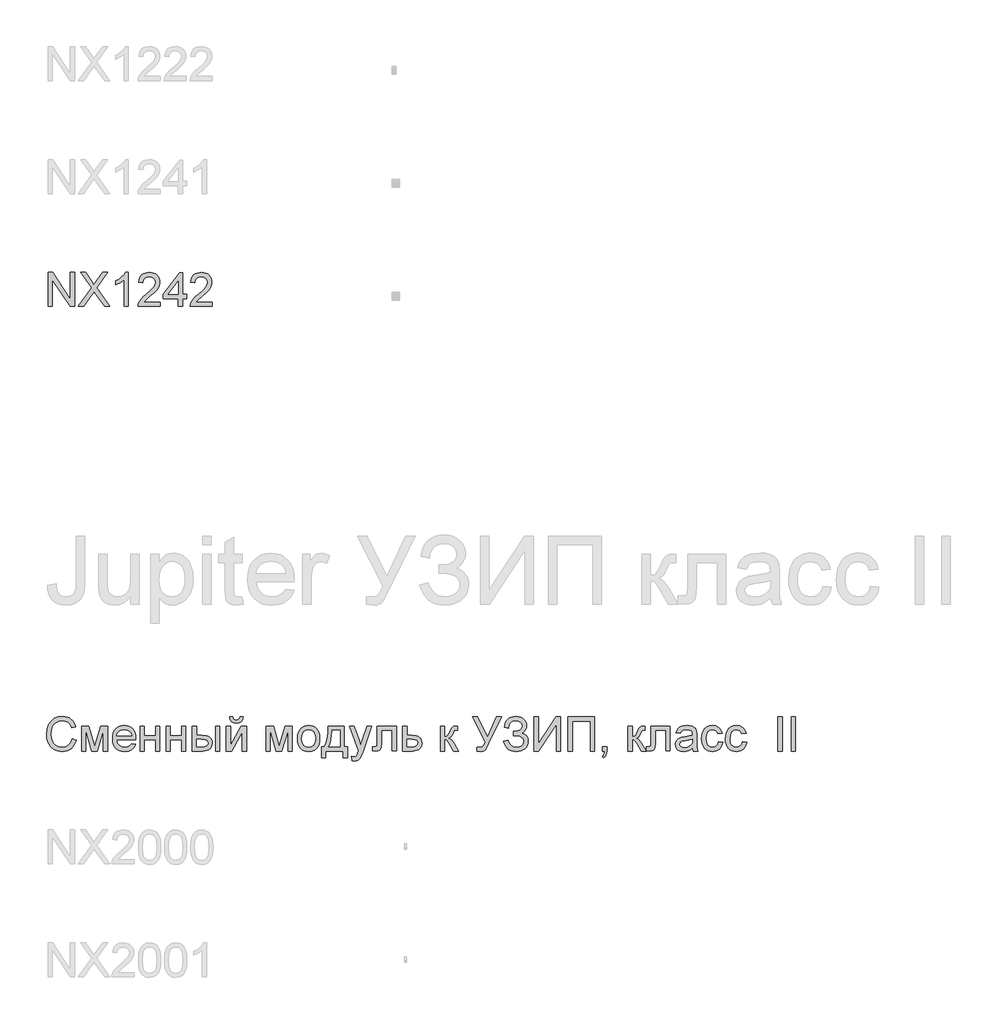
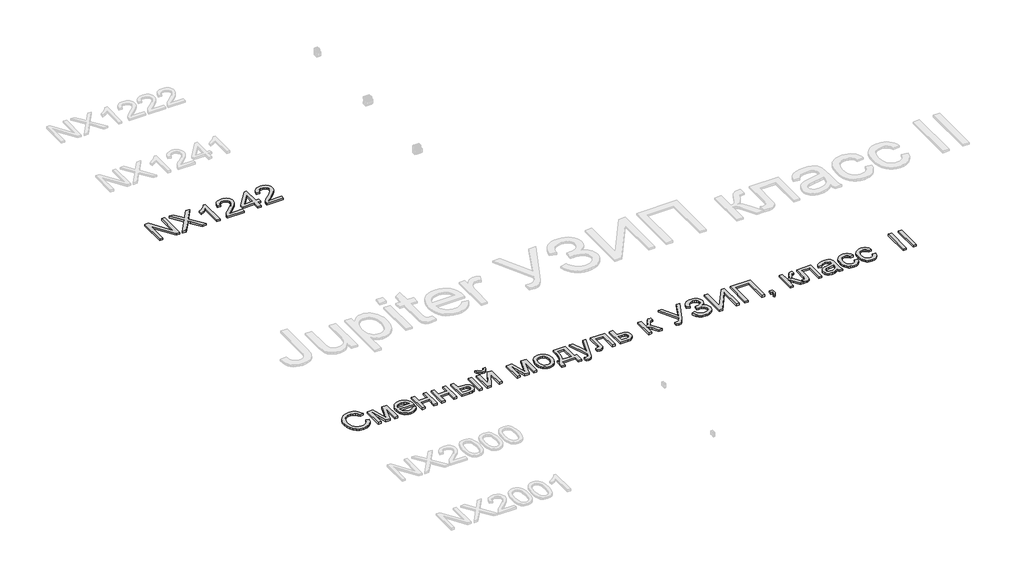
# One storey, part 28 of 124: 2 proxies.
"""IFC4 building model written with IfcOpenShell, lengths in millimetres."""

import ifcopenshell
import ifcopenshell.guid

model = None  # the IFC model being written
_history = None  # IfcOwnerHistory: only IFC2X3 demands one
_inside = {}  # id of a spatial element -> (the spatial element, [elements in it])
_under = {}  # id of a project, library or spatial element -> (it, [spatial elements below it])
_declared = {}  # id of a project -> (the project, [libraries it declares])
_typed = {}  # id of a type object -> (the type object, [elements of that type])
_made_of = {}  # id of a material, layer set ... -> (it, [elements and type objects made of it])


def new_model(schema):
    """Start an empty IFC model of exactly this schema.

    Asked for "IFC4X3", IfcOpenShell would pick the latest addendum, in which some entities
    have other attributes; the version numbers below select the first issue.
    IFC2X3 requires an IfcOwnerHistory on every rooted entity: one is made here for all.
    """
    global model, _history
    if schema == "IFC4X3":
        model = ifcopenshell.file(schema_version=(4, 3, 0, 0))
    else:
        model = ifcopenshell.file(schema=schema)
    _inside.clear()
    _under.clear()
    _declared.clear()
    _typed.clear()
    _made_of.clear()
    _history = None
    if model.schema == "IFC2X3":
        org = make("IfcOrganization", Name="unknown")
        user = make(
            "IfcPersonAndOrganization",
            ThePerson=make("IfcPerson", FamilyName="unknown"),
            TheOrganization=org,
        )
        app = make(
            "IfcApplication",
            ApplicationDeveloper=org,
            Version="unknown",
            ApplicationFullName="unknown",
            ApplicationIdentifier="unknown",
        )
        _history = make(
            "IfcOwnerHistory",
            OwningUser=user,
            OwningApplication=app,
            ChangeAction="ADDED",
            CreationDate=0,
        )
    return model


def make(cls, **values):
    """One entity of the class cls with the attributes given. An attribute that is None is left unset."""
    return model.create_entity(
        cls, **{name: value for name, value in values.items() if value is not None}
    )


def rooted(cls, **values):
    """An entity with a GlobalId (a new one), such as an element, a storey or a relation."""
    return make(cls, GlobalId=ifcopenshell.guid.new(), OwnerHistory=_history, **values)


def si_unit(unit_type, name, prefix=None):
    """IfcSIUnit, for example si_unit("LENGTHUNIT", "METRE", prefix="MILLI")."""
    return make("IfcSIUnit", UnitType=unit_type, Prefix=prefix, Name=name)


def assignment(units):
    """IfcUnitAssignment: the units of a project."""
    return None if units is None else make("IfcUnitAssignment", Units=units)


def point(xyz):
    """IfcCartesianPoint."""
    return None if xyz is None else make("IfcCartesianPoint", Coordinates=xyz)


def direction(xyz):
    """IfcDirection."""
    return None if xyz is None else make("IfcDirection", DirectionRatios=xyz)


def frame(location, z_axis=None, x_axis=None):
    """IfcAxis2Placement3D, a coordinate frame: its origin and axes. An axis left out is left unset."""
    return make(
        "IfcAxis2Placement3D",
        Location=point(location),
        Axis=direction(z_axis),
        RefDirection=direction(x_axis),
    )


def origin():
    """The frame at (0, 0, 0) with its axes left unset."""
    return frame((0.0, 0.0, 0.0))


def origin_with_axes():
    """The frame at (0, 0, 0) with the z axis (0, 0, 1) and the x axis (1, 0, 0) written out."""
    return frame((0.0, 0.0, 0.0), z_axis=(0.0, 0.0, 1.0), x_axis=(1.0, 0.0, 0.0))


def place(relative_to, where):
    """IfcLocalPlacement: puts the frame where relative to a parent placement (None: the world)."""
    return make(
        "IfcLocalPlacement", PlacementRelTo=relative_to, RelativePlacement=where
    )


def context(
    kind, dimensions, precision=None, world=None, true_north=None, identifier=None
):
    """IfcGeometricRepresentationContext, for example the 3D "Model" context."""
    return make(
        "IfcGeometricRepresentationContext",
        ContextIdentifier=identifier,
        ContextType=kind,
        CoordinateSpaceDimension=dimensions,
        Precision=precision,
        WorldCoordinateSystem=world,
        TrueNorth=true_north,
    )


def project(units=None, contexts=None):
    """IfcProject with its units and contexts."""
    return rooted(
        "IfcProject",
        Name="project",
        RepresentationContexts=contexts,
        UnitsInContext=assignment(units),
    )


def spatial(cls, under=None, at=None, **own):
    """A site, building, storey or space (cls), placed at a placement, below another one or the project."""
    s = rooted(cls, ObjectPlacement=at, **own)
    if under is not None:
        _under.setdefault(under.id(), (under, []))[1].append(s)
    return s


def polyline(points):
    """IfcPolyline through the points."""
    return make("IfcPolyline", Points=[point(p) for p in points])


def outline(outer, holes=None, kind="AREA"):
    """IfcArbitraryClosedProfileDef: a profile drawn as a closed curve; with holes, ...WithVoids."""
    if holes is None:
        return make("IfcArbitraryClosedProfileDef", ProfileType=kind, OuterCurve=outer)
    return make(
        "IfcArbitraryProfileDefWithVoids",
        ProfileType=kind,
        OuterCurve=outer,
        InnerCurves=holes,
    )


def extrude(swept, where, along, depth):
    """IfcExtrudedAreaSolid: the profile swept, set in the frame where, extruded along a direction by depth."""
    return make(
        "IfcExtrudedAreaSolid",
        SweptArea=swept,
        Position=where,
        ExtrudedDirection=direction(along),
        Depth=depth,
    )


def shape(context_of_items, identifier, shape_type, items):
    """IfcShapeRepresentation: the items that make up one representation, for example the "Body"."""
    return make(
        "IfcShapeRepresentation",
        ContextOfItems=context_of_items,
        RepresentationIdentifier=identifier,
        RepresentationType=shape_type,
        Items=items,
    )


def made_of(thing, what):
    """Note that an element or type object is made of a material, layer set ...; save() writes the relation."""
    if what is not None:
        _made_of.setdefault(what.id(), (what, []))[1].append(thing)
    return thing


def element(
    cls,
    number,
    at=None,
    inside=None,
    cuts=None,
    type_object=None,
    material=None,
    context=None,
    identifier="Body",
    shape_type=None,
    held_by="IfcProductDefinitionShape",
    body=None,
    shapes=None,
    **own,
):
    """One element of the class cls, such as IfcWall. Its Tag is "e" and its number.

    at: its placement. inside: the storey or other place that contains it. cuts: it is an
    opening in that element (IfcRelVoidsElement). A single representation is given by context,
    identifier, shape_type and body (its items); several are given by shapes. held_by: the class
    of the entity that holds the representations. save() writes the other relations.
    """
    e = rooted(cls, Tag="e%d" % number, ObjectPlacement=at, **own)
    if body is not None:
        shapes = [shape(context, identifier, shape_type, body)]
    if shapes is not None:
        e.Representation = make(held_by, Representations=shapes)
    if inside is not None:
        _inside.setdefault(inside.id(), (inside, []))[1].append(e)
    if cuts is not None:
        rooted(
            "IfcRelVoidsElement", RelatingBuildingElement=cuts, RelatedOpeningElement=e
        )
    if type_object is not None:
        _typed.setdefault(type_object.id(), (type_object, []))[1].append(e)
    return made_of(e, material)


def aggregate(whole, parts):
    """IfcRelAggregates: a whole, such as a stair, and the parts it consists of."""
    return rooted("IfcRelAggregates", RelatingObject=whole, RelatedObjects=parts)


def save(model, path):
    """Write the relations noted so far, then the file.

    IfcRelAggregates (storeys below a building ...), IfcRelContainedInSpatialStructure (elements
    in a storey), IfcRelDefinesByType, IfcRelAssociatesMaterial and IfcRelDeclares: one each for
    every whole, place, type object, material and project.
    """
    for whole, parts in _under.values():
        aggregate(whole, parts)
    for where, things in _inside.values():
        rooted(
            "IfcRelContainedInSpatialStructure",
            RelatedElements=things,
            RelatingStructure=where,
        )
    for kind, things in _typed.values():
        rooted("IfcRelDefinesByType", RelatedObjects=things, RelatingType=kind)
    for what, things in _made_of.values():
        rooted("IfcRelAssociatesMaterial", RelatedObjects=things, RelatingMaterial=what)
    for by, libraries in _declared.values():
        rooted("IfcRelDeclares", RelatingContext=by, RelatedDefinitions=libraries)
    model.write(path)


model = new_model("IFC4")

# Units and contexts
model_context = context("Model", 3, world=origin())
ifc_project = project(units=[si_unit("LENGTHUNIT", "METRE", prefix="MILLI")], contexts=[model_context])

# Site, building, storey
site = spatial("IfcSite", under=ifc_project)
building = spatial("IfcBuilding", under=site)
storey = spatial("IfcBuildingStorey", under=building, Name="Этаж 01", Elevation=0.0)

# Proxies
placement = place(None, origin())
element("IfcBuildingElementProxy", 1, Name="300", ObjectType="300", at=placement, inside=storey, context=model_context, shape_type="SweptSolid", body=[
    extrude(outline(polyline([(49499.8220677, -112181.4490745), (49499.8220677, -111880.080144), (49540.1419344, -111880.080144), (49697.5954283, -112118.8355589), (49697.5954283, -111880.080144), (49735.2665446, -111880.080144), (49735.2665446, -112181.4490745), (49694.9466779, -112181.4490745), (49537.493184, -111942.6200832), (49537.493184, -112181.4490745), (49499.8220677, -112181.4490745)])), origin_with_axes(), (0.0, 0.0, 1.0), 20.0),
    extrude(outline(polyline([(49768.2287714, -112181.4490745), (49884.4059055, -112017.2265518), (49787.0643295, -111880.080144), (49832.2402385, -111880.080144), (49887.0546558, -111957.2617866), (49905.522332, -111987.3545338), (49927.1537933, -111956.7467518), (49981.3795994, -111880.080144), (50027.217696, -111880.080144), (49929.8761201, -112017.6680102), (50046.0532541, -112181.4490745), (50000.8773451, -112181.4490745), (49923.4749733, -112072.2616983), (49907.361742, -112049.6001674), (49889.6298298, -112074.4689903), (49814.066868, -112181.4490745), (49768.2287714, -112181.4490745)])), origin_with_axes(), (0.0, 0.0, 1.0), 20.0),
    extrude(outline(polyline([(50210.864388, -112181.4490745), (50173.1932717, -112181.4490745), (50173.1932717, -111946.5932087), (50137.5087181, -111972.0138546), (50097.8510391, -111991.0333538), (50097.8510391, -111955.4223766), (50127.4379485, -111939.3275393), (50153.0701265, -111920.1792815), (50173.2760451, -111899.817013), (50186.5841763, -111880.080144), (50210.864388, -111880.080144), (50210.864388, -112181.4490745)])), origin_with_axes(), (0.0, 0.0, 1.0), 20.0),
    extrude(outline(polyline([(50493.3977603, -112143.7779581), (50493.3977603, -112181.4490745), (50295.6243997, -112181.4490745), (50299.6711016, -112155.4766056), (50308.960122, -112135.1787165), (50322.5533617, -112115.4878327), (50342.2166543, -112094.8772439), (50369.7158335, -112071.8202399), (50410.366794, -112035.7126221), (50434.7573702, -112009.0595715), (50446.9526584, -111987.4281102), (50451.0177544, -111966.3852601), (50447.1825846, -111947.5221108), (50435.6770752, -111931.8411407), (50417.9911483, -111921.2737304), (50395.6147259, -111917.7512603), (50372.1162635, -111921.190957), (50353.8601195, -111931.5100469), (50342.0786986, -111947.8991898), (50338.0044055, -111969.5490452), (50300.3332892, -111964.8401557), (50309.4659597, -111928.4014441), (50318.0123183, -111913.8655067), (50329.2120258, -111901.7851817), (50342.8075648, -111892.2892277), (50358.5414179, -111885.5064034), (50396.4240663, -111880.080144), (50416.6138901, -111881.5884602), (50434.5826263, -111886.1134087), (50450.3302749, -111893.6549896), (50463.8568361, -111904.2132029), (50474.7208512, -111917.0062993), (50482.4808621, -111931.2525295), (50487.1368686, -111946.9518937), (50488.6888707, -111964.1043917), (50487.0150077, -111982.1214124), (50481.9934184, -111999.8257334), (50473.0814771, -112017.8335571), (50459.7365577, -112036.7610858), (50438.4637813, -112059.3582373), (50405.768269, -112088.3749297), (50362.43177, -112124.6113062), (50345.4356218, -112143.7779581), (50493.3977603, -112143.7779581)])), origin_with_axes(), (0.0, 0.0, 1.0), 20.0),
    extrude(outline(polyline([(50653.5000046, -112181.4490745), (50653.5000046, -112110.8157314), (50516.942208, -112110.8157314), (50516.942208, -112073.1446151), (50662.9177836, -111884.7890335), (50691.1711209, -111884.7890335), (50691.1711209, -112073.1446151), (50728.8422372, -112073.1446151), (50728.8422372, -112110.8157314), (50691.1711209, -112110.8157314), (50691.1711209, -112181.4490745), (50653.5000046, -112181.4490745)]), holes=[polyline([(50653.5000046, -112073.1446151), (50653.5000046, -111956.7467518), (50563.2953394, -112073.1446151), (50653.5000046, -112073.1446151)])]), origin_with_axes(), (0.0, 0.0, 1.0), 20.0),
    extrude(outline(polyline([(50954.868935, -112143.7779581), (50954.868935, -112181.4490745), (50757.0955744, -112181.4490745), (50761.1422764, -112155.4766056), (50770.4312967, -112135.1787165), (50784.0245365, -112115.4878327), (50803.6878291, -112094.8772439), (50831.1870082, -112071.8202399), (50871.8379687, -112035.7126221), (50896.228545, -112009.0595715), (50908.4238331, -111987.4281102), (50912.4889292, -111966.3852601), (50908.6537594, -111947.5221108), (50897.14825, -111931.8411407), (50879.4623231, -111921.2737304), (50857.0859007, -111917.7512603), (50833.5874383, -111921.190957), (50815.3312942, -111931.5100469), (50803.5498734, -111947.8991898), (50799.4755803, -111969.5490452), (50761.8044639, -111964.8401557), (50770.9371345, -111928.4014441), (50779.4834931, -111913.8655067), (50790.6832006, -111901.7851817), (50804.2787396, -111892.2892277), (50820.0125926, -111885.5064034), (50857.8952411, -111880.080144), (50878.0850648, -111881.5884602), (50896.053801, -111886.1134087), (50911.8014497, -111893.6549896), (50925.3280108, -111904.2132029), (50936.192026, -111917.0062993), (50943.9520368, -111931.2525295), (50948.6080433, -111946.9518937), (50950.1600455, -111964.1043917), (50948.4861824, -111982.1214124), (50943.4645932, -111999.8257334), (50934.5526518, -112017.8335571), (50921.2077325, -112036.7610858), (50899.9349561, -112059.3582373), (50867.2394438, -112088.3749297), (50823.9029447, -112124.6113062), (50806.9067966, -112143.7779581), (50954.868935, -112143.7779581)])), origin_with_axes(), (0.0, 0.0, 1.0), 20.0),
])
element("IfcBuildingElementProxy", 2, Name="300", ObjectType="300", at=placement, inside=storey, context=model_context, shape_type="SweptSolid", body=[
    extrude(outline(polyline([(49711.7220969, -116009.5641523), (49749.3932132, -116019.276237), (49741.9390043, -116042.7034223), (49732.0107889, -116063.1737561), (49719.6085672, -116080.6872383), (49704.732339, -116095.243869), (49687.7177967, -116106.6872983), (49668.9006327, -116114.8611764), (49648.2808468, -116119.7655032), (49625.8584392, -116121.4002788), (49582.1632553, -116116.452266), (49547.4627861, -116101.6082275), (49520.8649178, -116077.3831981), (49501.4775367, -116044.2922126), (49489.6409335, -116005.3886917), (49485.6953991, -115963.7260557), (49490.1559683, -115919.7825514), (49503.5376758, -115881.8355236), (49525.141546, -115851.0897858), (49554.268603, -115828.7501517), (49588.8127223, -115815.1477149), (49626.6677796, -115810.6135693), (49667.9717306, -115816.4812871), (49685.9404668, -115823.8159344), (49702.1203768, -115834.0844406), (49716.2447462, -115847.0154927), (49728.0468605, -115862.3377778), (49744.6843237, -115900.1560469), (49707.0132074, -115909.1323676), (49693.9533965, -115881.6607796), (49676.1111198, -115862.8160244), (49653.2656479, -115851.9175203), (49625.1962516, -115848.2846856), (49592.8410302, -115852.3129935), (49566.261556, -115864.397917), (49546.0924256, -115883.2702634), (49532.9682355, -115907.6608396), (49525.7669454, -115935.2335952), (49523.3665154, -115963.6524793), (49526.2084038, -115998.4541161), (49534.734069, -116028.5468633), (49549.2654078, -116052.7810897), (49570.124317, -116070.0071641), (49595.1310956, -116080.2986629), (49622.1060429, -116083.7291625), (49653.5507564, -116079.0570612), (49679.7531515, -116065.0407572), (49699.5360058, -116041.8274033), (49711.7220969, -116009.5641523)])), origin_with_axes(), (0.0, 0.0, 1.0), 20.0),
    extrude(outline(polyline([(49796.4821086, -115895.373581), (49861.3029162, -115895.373581), (49911.2612911, -116072.5455499), (49965.1192152, -115895.373581), (50027.217696, -115895.373581), (50027.217696, -116116.6913893), (49989.5465797, -116116.6913893), (49989.5465797, -115938.4893508), (49935.39435, -116116.6913893), (49885.9510098, -116116.6913893), (49834.1532249, -115929.9544885), (49834.1532249, -116116.6913893), (49796.4821086, -116116.6913893), (49796.4821086, -115895.373581)])), origin_with_axes(), (0.0, 0.0, 1.0), 20.0),
    extrude(outline(polyline([(50238.6762668, -116050.7669358), (50275.6116191, -116055.4758253), (50262.3034879, -116083.3060982), (50241.0674998, -116104.1098251), (50212.3819012, -116117.0776654), (50176.7249388, -116121.4002788), (50153.3506366, -116119.535577), (50132.5239171, -116113.9414714), (50114.2447805, -116104.6179621), (50098.5132266, -116091.565049), (50085.8626845, -116075.1460157), (50076.826583, -116055.7241456), (50071.4049221, -116033.2994388), (50069.5977018, -116007.8718951), (50071.4233162, -115981.582128), (50076.9001594, -115958.4101609), (50086.0282314, -115938.3559936), (50098.8075322, -115921.4196263), (50114.4976993, -115907.9643423), (50132.3583702, -115898.3534252), (50152.3895448, -115892.5868749), (50174.5912232, -115890.6646915), (50196.077831, -115892.5822764), (50215.5088982, -115898.3350311), (50232.8844246, -115907.9229556), (50248.2044105, -115921.3460499), (50260.7100991, -115938.245629), (50269.6427338, -115958.2630081), (50275.0023146, -115981.398187), (50276.7888415, -116007.6511659), (50276.5681123, -116017.804709), (50107.2688181, -116017.804709), (50113.7895265, -116046.0028639), (50128.9370676, -116066.7330144), (50150.7984552, -116079.4801255), (50177.4607028, -116083.7291625), (50197.5102715, -116081.7609939), (50214.3960551, -116075.8564878), (50228.1180535, -116065.6477625), (50238.6762668, -116050.7669358)]), holes=[polyline([(50107.2688181, -115980.1335927), (50239.1177252, -115980.1335927), (50234.0225596, -115960.2311768), (50224.0345634, -115945.9941435), (50202.0720083, -115932.7503917), (50174.4440704, -115928.3358078), (50149.0510157, -115931.8582779), (50128.0541509, -115942.4256882), (50113.4584327, -115958.8976045), (50107.2688181, -115980.1335927)])]), origin_with_axes(), (0.0, 0.0, 1.0), 20.0),
    extrude(outline(polyline([(50314.4599578, -115895.373581), (50352.1310741, -115895.373581), (50352.1310741, -115980.1335927), (50451.0177544, -115980.1335927), (50451.0177544, -115895.373581), (50488.6888707, -115895.373581), (50488.6888707, -116116.6913893), (50451.0177544, -116116.6913893), (50451.0177544, -116017.804709), (50352.1310741, -116017.804709), (50352.1310741, -116116.6913893), (50314.4599578, -116116.6913893), (50314.4599578, -115895.373581)])), origin_with_axes(), (0.0, 0.0, 1.0), 20.0),
    extrude(outline(polyline([(50545.1955452, -115895.373581), (50582.8666615, -115895.373581), (50582.8666615, -115980.1335927), (50681.7533418, -115980.1335927), (50681.7533418, -115895.373581), (50719.4244581, -115895.373581), (50719.4244581, -116116.6913893), (50681.7533418, -116116.6913893), (50681.7533418, -116017.804709), (50582.8666615, -116017.804709), (50582.8666615, -116116.6913893), (50545.1955452, -116116.6913893), (50545.1955452, -115895.373581)])), origin_with_axes(), (0.0, 0.0, 1.0), 20.0),
    extrude(outline(polyline([(50983.1222722, -115895.373581), (51020.7933886, -115895.373581), (51020.7933886, -116116.6913893), (50983.1222722, -116116.6913893), (50983.1222722, -115895.373581)])), origin_with_axes(), (0.0, 0.0, 1.0), 20.0),
    extrude(outline(polyline([(50775.9311326, -115895.373581), (50813.6022489, -115895.373581), (50813.6022489, -115975.4247032), (50860.1761095, -115975.4247032), (50900.4315968, -115980.1427897), (50916.648295, -115986.040398), (50930.2576295, -115994.2970495), (50941.0250757, -116004.6276358), (50948.7161086, -116016.7470483), (50953.3307284, -116030.6552869), (50954.868935, -116046.3523518), (50949.70939, -116073.308905), (50934.2307551, -116096.0532094), (50922.36886, -116105.0824131), (50907.4213547, -116111.5318443), (50868.2695134, -116116.6913893), (50775.9311326, -116116.6913893), (50775.9311326, -115895.373581)]), holes=[polyline([(50813.6022489, -116079.020273), (50852.3034348, -116079.020273), (50882.3042115, -116077.0429073), (50902.2618097, -116071.1108101), (50913.4638165, -116060.9848582), (50917.1978187, -116046.4259282), (50914.4295067, -116034.1202755), (50906.1245707, -116023.2493625), (50888.3650673, -116015.6342052), (50857.2330535, -116013.0958195), (50813.6022489, -116013.0958195), (50813.6022489, -116079.020273)])]), origin_with_axes(), (0.0, 0.0, 1.0), 20.0),
    extrude(outline(polyline([(51077.300063, -115895.373581), (51114.9711793, -115895.373581), (51114.9711793, -116064.1578404), (51207.5302893, -115895.373581), (51256.2378655, -115895.373581), (51256.2378655, -116116.6913893), (51218.5667492, -116116.6913893), (51218.5667492, -115948.9371995), (51126.5962504, -116116.6913893), (51077.300063, -116116.6913893), (51077.300063, -115895.373581)])), origin_with_axes(), (0.0, 0.0, 1.0), 20.0),
    extrude(outline(polyline([(51199.731191, -115815.3224589), (51227.9845282, -115815.3224589), (51221.9052783, -115839.4463207), (51209.7007931, -115857.2242181), (51191.9228957, -115868.1779045), (51169.123409, -115871.8291333), (51144.3833448, -115868.2054957), (51125.1982988, -115857.3345827), (51112.0833057, -115839.5842764), (51105.5534002, -115815.3224589), (51133.8067375, -115815.3224589), (51137.779863, -115827.7292791), (51144.4017389, -115836.54925), (51153.7091534, -115841.8191596), (51165.7388947, -115843.5757961), (51179.3137403, -115841.8743419), (51189.1361895, -115836.7699792), (51195.7580655, -115828.0051906), (51199.731191, -115815.3224589)])), origin_with_axes(), (0.0, 0.0, 1.0), 20.0),
    extrude(outline(polyline([(51430.4667784, -115895.373581), (51495.2875859, -115895.373581), (51545.2459609, -116072.5455499), (51599.103885, -115895.373581), (51661.2023658, -115895.373581), (51661.2023658, -116116.6913893), (51623.5312495, -116116.6913893), (51623.5312495, -115938.4893508), (51569.3790198, -116116.6913893), (51519.9356796, -116116.6913893), (51468.1378947, -115929.9544885), (51468.1378947, -116116.6913893), (51430.4667784, -116116.6913893), (51430.4667784, -115895.373581)])), origin_with_axes(), (0.0, 0.0, 1.0), 20.0),
    extrude(outline(polyline([(51708.2912611, -116006.0324852), (51710.3284077, -115977.3698792), (51716.4398473, -115952.6712018), (51726.6255801, -115931.9364528), (51740.8856059, -115915.1656323), (51755.2422008, -115904.4464707), (51771.0887177, -115896.7899267), (51788.4251567, -115892.1960003), (51807.2515178, -115890.6646915), (51828.0345513, -115892.5293933), (51846.8264235, -115898.1234989), (51863.6271343, -115907.4470082), (51878.4366839, -115920.4999213), (51890.5239067, -115936.8407796), (51899.1576373, -115956.028125), (51904.3378756, -115978.0619572), (51906.0646217, -116002.9422764), (51903.0112012, -116040.9996688), (51893.8509395, -116069.9703759), (51878.8505512, -116091.6662166), (51858.2767506, -116107.8990096), (51833.840189, -116118.0249615), (51807.2515178, -116121.4002788), (51786.1649817, -116119.5424748), (51767.1983656, -116113.9690625), (51750.3516695, -116104.6800422), (51735.6248934, -116091.6754136), (51723.6664293, -116075.1759061), (51715.1246692, -116055.4022489), (51709.9996132, -116032.3544419), (51708.2912611, -116006.0324852)]), holes=[polyline([(51745.9623774, -116005.9589088), (51750.3217791, -116040.0523727), (51763.399984, -116064.3417814), (51783.0816708, -116078.8823172), (51807.2515178, -116083.7291625), (51831.3110003, -116078.8547261), (51850.9558989, -116064.2314168), (51864.0341038, -116039.6201113), (51868.3935054, -116004.7816864), (51864.0065126, -115971.6815039), (51850.8455343, -115947.7231889), (51831.1730446, -115933.1826531), (51807.2515178, -115928.3358078), (51783.0816708, -115933.164259), (51763.399984, -115947.6496125), (51750.3217791, -115971.8838389), (51745.9623774, -116005.9589088)])]), origin_with_axes(), (0.0, 0.0, 1.0), 20.0),
    extrude(outline(polyline([(51981.4068544, -115895.373581), (52122.6735405, -115895.373581), (52122.6735405, -116079.020273), (52150.9268777, -116079.020273), (52150.9268777, -116177.9069533), (52113.2557614, -116177.9069533), (52113.2557614, -116116.6913893), (51957.8624067, -116116.6913893), (51957.8624067, -116177.9069533), (51920.1912904, -116177.9069533), (51920.1912904, -116079.020273), (51943.7357381, -116079.020273), (51960.8514479, -116048.0905942), (51972.8352039, -116007.1729193), (51979.687006, -115956.2672483), (51981.4068544, -115895.373581)]), holes=[polyline([(52014.3690811, -115933.0446973), (52011.2788724, -115979.1679025), (52005.5399132, -116018.8715668), (51997.1522038, -116052.1556903), (51986.1157439, -116079.020273), (52085.0024242, -116079.020273), (52085.0024242, -115933.0446973), (52014.3690811, -115933.0446973)])]), origin_with_axes(), (0.0, 0.0, 1.0), 20.0),
    extrude(outline(polyline([(52193.3068836, -116201.451401), (52188.597994, -116165.1782363), (52207.7278578, -116168.4891742), (52225.6069228, -116164.3321077), (52236.5698062, -116152.7438248), (52246.8705021, -116125.0055224), (52249.813558, -116115.8820489), (52169.7624359, -115895.373581), (52209.4936914, -115895.373581), (52251.9472736, -116018.2461674), (52266.7361298, -116067.3952019), (52281.524986, -116023.9851265), (52325.1557907, -115895.373581), (52364.5927405, -115895.373581), (52287.5582507, -116121.98889), (52267.5454702, -116171.1379246), (52257.2999566, -116186.8280917), (52245.6932797, -116197.6990046), (52232.2104046, -116204.0449691), (52216.3362965, -116206.1602905), (52193.3068836, -116201.451401)])), origin_with_axes(), (0.0, 0.0, 1.0), 20.0),
    extrude(outline(polyline([(52414.6246919, -115895.373581), (52584.1447153, -115895.373581), (52584.1447153, -116116.4706601), (52546.4735989, -116116.4706601), (52546.4735989, -115933.0446973), (52452.2958082, -115933.0446973), (52452.2958082, -116038.6268299), (52449.7574224, -116087.3344061), (52445.0025476, -116098.3616689), (52435.8146948, -116107.8990096), (52421.8719672, -116114.4932944), (52402.852468, -116116.6913893), (52372.244686, -116114.7784029), (52372.244686, -116079.020273), (52389.0936814, -116079.020273), (52406.1266178, -116076.7026164), (52412.9324347, -116069.3449765), (52414.6246919, -116036.4931144), (52414.6246919, -115895.373581)])), origin_with_axes(), (0.0, 0.0, 1.0), 20.0),
    extrude(outline(polyline([(52640.6513897, -115895.373581), (52678.322506, -115895.373581), (52678.322506, -115975.4247032), (52721.7325815, -115975.4247032), (52759.3669096, -115980.1427897), (52774.5144507, -115986.040398), (52787.2155766, -115994.2970495), (52797.2587551, -116004.6276358), (52804.432454, -116016.7470483), (52810.1714131, -116046.3523518), (52805.2877796, -116073.308905), (52790.6368791, -116096.0532094), (52779.404982, -116105.0824131), (52765.2438244, -116111.5318443), (52728.1337282, -116116.6913893), (52640.6513897, -116116.6913893), (52640.6513897, -115895.373581)]), holes=[polyline([(52678.322506, -116079.020273), (52713.4920248, -116079.020273), (52740.7796718, -116077.0429073), (52758.9254512, -116071.1108101), (52769.1065854, -116060.9848582), (52772.5002968, -116046.4259282), (52769.9895022, -116034.1202755), (52762.4571183, -116023.2493625), (52746.3162958, -116015.6342052), (52717.9801851, -116013.0958195), (52678.322506, -116013.0958195), (52678.322506, -116079.020273)])]), origin_with_axes(), (0.0, 0.0, 1.0), 20.0),
    extrude(outline(polyline([(52974.9825469, -115895.373581), (53012.6536632, -115895.373581), (53012.6536632, -115989.5513718), (53027.9759483, -115987.8591146), (53037.8903681, -115982.7823431), (53046.6643537, -115969.5385912), (53058.5653362, -115943.3453932), (53075.7454254, -115909.3163086), (53090.9021636, -115898.2430606), (53118.4565251, -115895.373581), (53125.6670122, -115895.373581), (53125.6670122, -115933.2654265), (53115.5134691, -115933.0446973), (53097.1193693, -115937.0178229), (53084.1699231, -115961.8130693), (53068.9763967, -115988.6316668), (53047.6760292, -116001.765054), (53059.6137999, -116007.0671533), (53071.4412061, -116016.4251515), (53094.7649246, -116047.308845), (53135.0847912, -116116.6913893), (53092.263327, -116116.6913893), (53052.7528007, -116048.780373), (53032.887173, -116020.0487892), (53023.5981526, -116014.8340619), (53012.6536632, -116013.0958195), (53012.6536632, -116116.6913893), (52974.9825469, -116116.6913893), (52974.9825469, -115895.373581)])), origin_with_axes(), (0.0, 0.0, 1.0), 20.0),
    extrude(outline(polyline([(53259.870364, -115815.3224589), (53301.5881822, -115815.3224589), (53391.7192711, -115993.8188029), (53472.8004628, -115815.3224589), (53514.1503991, -115815.3224589), (53399.7390986, -116050.1047482), (53382.4670389, -116086.5618539), (53368.6162818, -116107.788645), (53353.8458197, -116117.9973704), (53333.814645, -116121.4002788), (53299.8959251, -116116.6913893), (53299.8959251, -116083.7291625), (53329.5472139, -116083.7291625), (53341.4114082, -116081.6322352), (53351.5465572, -116075.341453), (53361.277036, -116061.6010605), (53371.9272197, -116037.1553019), (53259.870364, -115815.3224589)])), origin_with_axes(), (0.0, 0.0, 1.0), 20.0),
    extrude(outline(polyline([(53535.340402, -116031.9313776), (53573.0115183, -116022.5135985), (53580.9669664, -116042.9034581), (53596.1512958, -116063.3117118), (53618.0126834, -116078.6247998), (53645.9993061, -116083.7291625), (53674.3538109, -116079.8939927), (53695.9944693, -116068.3884833), (53709.7072706, -116051.4567145), (53714.2782044, -116031.3427664), (53709.2842064, -116010.2723251), (53694.3022121, -115994.0027439), (53670.7117792, -115983.6008805), (53639.892465, -115980.1335927), (53620.1004137, -115980.1335927), (53620.1004137, -115942.4624764), (53662.7379369, -115939.4090558), (53676.6346793, -115933.9827964), (53688.8207704, -115923.8108592), (53697.3188445, -115910.4107576), (53700.1515358, -115895.3000046), (53696.3807454, -115877.5588954), (53685.068374, -115862.3009896), (53667.3180678, -115851.7887616), (53644.2334726, -115848.2846856), (53623.3653664, -115850.9794212), (53605.7898041, -115859.0636281), (53592.325323, -115871.5992071), (53583.7904607, -115887.6480591), (53577.7204078, -115914.2091392), (53540.0492915, -115904.7913601), (53551.7525375, -115863.5885766), (53561.1668677, -115847.4017688), (53572.956336, -115834.158017), (53587.1209424, -115823.8573211), (53603.660687, -115816.4996812), (53622.5755697, -115812.0850973), (53643.8655906, -115810.6135693), (53664.3773111, -115812.1425789), (53682.6495499, -115816.7296075), (53698.6823071, -115824.3746552), (53712.4755827, -115835.077722), (53723.5649256, -115847.8271324), (53731.4858848, -115861.6112109), (53736.2384603, -115876.4299575), (53737.8226521, -115892.2833722), (53735.3578428, -115912.1076133), (53727.9634147, -115929.5682125), (53715.6393678, -115944.6651698), (53698.3857022, -115957.3984854), (53719.3365819, -115967.0461907), (53736.5718533, -115983.334166), (53748.1049539, -116004.8644598), (53751.9493207, -116030.2391204), (53750.1053122, -116048.8700442), (53744.5732867, -116065.9144769), (53735.3532442, -116081.3724185), (53722.4451847, -116095.243869), (53706.4929017, -116106.6872983), (53688.1401887, -116114.8611764), (53667.3870456, -116119.7655032), (53644.2334726, -116121.4002788), (53606.0289274, -116115.8084725), (53589.6719741, -116108.8187146), (53575.1452339, -116099.0330535), (53562.4487065, -116086.4514893), (53551.5823921, -116071.0740219), (53535.340402, -116031.9313776)])), origin_with_axes(), (0.0, 0.0, 1.0), 20.0),
    extrude(outline(polyline([(53803.7471057, -115815.3224589), (53841.418222, -115815.3224589), (53841.418222, -116054.0042973), (53999.1660215, -115815.3224589), (54039.1915826, -115815.3224589), (54039.1915826, -116116.6913893), (54001.5204663, -116116.6913893), (54001.5204663, -115878.6717384), (53844.1405487, -116116.6913893), (53803.7471057, -116116.6913893), (53803.7471057, -115815.3224589)])), origin_with_axes(), (0.0, 0.0, 1.0), 20.0),
    extrude(outline(polyline([(54105.1160361, -115815.3224589), (54340.560513, -115815.3224589), (54340.560513, -116116.6913893), (54302.8893967, -116116.6913893), (54302.8893967, -115852.9935752), (54142.7871524, -115852.9935752), (54142.7871524, -116116.6913893), (54105.1160361, -116116.6913893), (54105.1160361, -115815.3224589)])), origin_with_axes(), (0.0, 0.0, 1.0), 20.0),
    extrude(outline(polyline([(54411.1938561, -116116.6913893), (54411.1938561, -116079.020273), (54448.8649724, -116079.020273), (54448.8649724, -116116.6913893), (54447.1727152, -116138.2400772), (54442.0959437, -116155.2086342), (54433.3403522, -116168.2224598), (54420.6116352, -116177.9069533), (54411.1938561, -116163.7802847), (54419.3608364, -116156.9560737), (54425.0262191, -116147.5199005), (54429.9558379, -116116.6913893), (54411.1938561, -116116.6913893)])), origin_with_axes(), (0.0, 0.0, 1.0), 20.0),
    extrude(outline(polyline([(54839.7028041, -115895.373581), (55009.2228275, -115895.373581), (55009.2228275, -116116.4706601), (54971.5517112, -116116.4706601), (54971.5517112, -115933.0446973), (54877.3739204, -115933.0446973), (54877.3739204, -116038.6268299), (54874.8355346, -116087.3344061), (54870.0806598, -116098.3616689), (54860.892807, -116107.8990096), (54846.9500794, -116114.4932944), (54827.9305802, -116116.6913893), (54797.3227982, -116114.7784029), (54797.3227982, -116079.020273), (54814.1717936, -116079.020273), (54831.20473, -116076.7026164), (54838.0105469, -116069.3449765), (54839.7028041, -116036.4931144), (54839.7028041, -115895.373581)])), origin_with_axes(), (0.0, 0.0, 1.0), 20.0),
    extrude(outline(polyline([(54637.2205539, -115895.373581), (54674.8916702, -115895.373581), (54674.8916702, -115989.5513718), (54690.2139553, -115987.8591146), (54700.1283751, -115982.7823431), (54708.9023607, -115969.5385912), (54720.8033432, -115943.3453932), (54737.9834324, -115909.3163086), (54753.1401706, -115898.2430606), (54780.6945321, -115895.373581), (54787.9050192, -115895.373581), (54787.9050192, -115933.2654265), (54777.7514761, -115933.0446973), (54759.3573763, -115937.0178229), (54746.4079301, -115961.8130693), (54731.2144037, -115988.6316668), (54709.9140362, -116001.765054), (54721.8518069, -116007.0671533), (54733.6792131, -116016.4251515), (54757.0029316, -116047.308845), (54797.3227982, -116116.6913893), (54754.501334, -116116.6913893), (54714.9908077, -116048.780373), (54695.12518, -116020.0487892), (54685.8361596, -116014.8340619), (54674.8916702, -116013.0958195), (54674.8916702, -116116.6913893), (54637.2205539, -116116.6913893), (54637.2205539, -115895.373581)])), origin_with_axes(), (0.0, 0.0, 1.0), 20.0),
    extrude(outline(polyline([(55206.9961881, -116088.4380521), (55188.9975615, -116103.8707018), (55170.4655059, -116113.9690625), (55150.9769573, -116119.5424748), (55130.1088511, -116121.4002788), (55098.6273493, -116116.9305126), (55075.4047984, -116103.5212139), (55061.0849917, -116083.1589454), (55056.3117228, -116057.8302701), (55058.1143446, -116042.2136794), (55063.5222099, -116028.0318285), (55071.8639342, -116015.8917226), (55082.4681327, -116006.4003671), (55108.8452718, -115994.0395321), (55141.4396165, -115988.3741494), (55179.9568614, -115982.4144611), (55206.7754589, -115975.4247032), (55206.9961881, -115967.0369937), (55204.40262, -115950.2247865), (55196.6219158, -115939.2251148), (55179.2210974, -115931.0581345), (55154.977674, -115928.3358078), (55132.5368722, -115930.1476266), (55116.8650993, -115935.5830831), (55106.1781273, -115945.6354586), (55098.6917287, -115961.2980345), (55061.0206124, -115956.589145), (55067.5597148, -115935.9877533), (55077.3177848, -115919.8009455), (55091.2053301, -115907.4217163), (55110.1328587, -115898.2430606), (55133.2818333, -115892.5592837), (55159.8337163, -115890.6646915), (55185.3003474, -115892.3385545), (55205.4878719, -115897.3601438), (55220.7089894, -115904.9109217), (55231.2763997, -115914.172351), (55238.2845518, -115925.6226781), (55242.8278944, -115939.7401496), (55244.6673044, -115972.7023764), (55244.6673044, -116019.5705426), (55246.5802907, -116085.0167495), (55254.0850835, -116116.6913893), (55216.4139671, -116116.6913893), (55206.9961881, -116088.4380521)]), holes=[polyline([(55206.9961881, -116013.0958195), (55146.2220825, -116024.6473141), (55113.8116787, -116030.7541552), (55099.1331871, -116040.6869691), (55093.9828392, -116055.1815197), (55096.7879394, -116066.3835265), (55105.20324, -116075.5621822), (55119.0448001, -116081.6874175), (55138.1286786, -116083.7291625), (55158.3621883, -116081.4758853), (55176.2412533, -116074.7160537), (55190.7358039, -116064.7556486), (55200.8157705, -116052.9006513), (55205.2855368, -116040.6869691), (55206.7754589, -116023.7643973), (55206.9961881, -116013.0958195)])]), origin_with_axes(), (0.0, 0.0, 1.0), 20.0),
    extrude(outline(polyline([(55437.7317754, -116036.6402671), (55475.4028917, -116041.3491567), (55464.8998608, -116074.8540094), (55445.1629917, -116100.1734877), (55418.0500887, -116116.0935811), (55385.4189557, -116121.4002788), (55364.2910329, -116119.5493726), (55345.3474094, -116113.9966537), (55328.5880853, -116104.7421222), (55314.0130605, -116091.7857782), (55302.2155447, -116075.3713435), (55293.7887478, -116055.7425397), (55288.7326696, -116032.8993671), (55287.0473102, -116006.8418255), (55289.9259868, -115973.3185787), (55298.5620167, -115944.2650982), (55313.0933555, -115920.8034239), (55333.657959, -115904.0555961), (55358.2600674, -115894.0124176), (55384.9039209, -115890.6646915), (55416.7349106, -115895.2632164), (55442.1831476, -115909.0587912), (55460.4392916, -115931.3156519), (55470.6940022, -115961.2980345), (55433.0228859, -115966.0069241), (55426.1894778, -115949.5717959), (55415.5484911, -115937.790375), (55401.688537, -115930.6994496), (55385.1982265, -115928.3358078), (55360.8536355, -115932.989515), (55341.5306337, -115946.9506367), (55328.9214783, -115970.973331), (55324.7184265, -116005.811756), (55328.8295078, -116041.1192304), (55341.1627517, -116065.2246982), (55360.1362656, -116079.1030464), (55384.1681569, -116083.7291625), (55403.6750997, -116080.8412889), (55419.6687695, -116072.1776679), (55431.3030376, -116057.5175704), (55437.7317754, -116036.6402671)])), origin_with_axes(), (0.0, 0.0, 1.0), 20.0),
    extrude(outline(polyline([(55649.6318047, -116036.6402671), (55687.302921, -116041.3491567), (55676.79989, -116074.8540094), (55657.063021, -116100.1734877), (55629.9501179, -116116.0935811), (55597.318985, -116121.4002788), (55576.1910621, -116119.5493726), (55557.2474386, -116113.9966537), (55540.4881145, -116104.7421222), (55525.9130897, -116091.7857782), (55514.115574, -116075.3713435), (55505.688777, -116055.7425397), (55500.6326988, -116032.8993671), (55498.9473394, -116006.8418255), (55501.8260161, -115973.3185787), (55510.4620459, -115944.2650982), (55524.9933847, -115920.8034239), (55545.5579882, -115904.0555961), (55570.1600967, -115894.0124176), (55596.8039502, -115890.6646915), (55628.6349398, -115895.2632164), (55654.0831768, -115909.0587912), (55672.3393208, -115931.3156519), (55682.5940314, -115961.2980345), (55644.9229151, -115966.0069241), (55638.0895071, -115949.5717959), (55627.4485204, -115937.790375), (55613.5885662, -115930.6994496), (55597.0982558, -115928.3358078), (55572.7536647, -115932.989515), (55553.4306629, -115946.9506367), (55540.8215075, -115970.973331), (55536.6184557, -116005.811756), (55540.729537, -116041.1192304), (55553.0627809, -116065.2246982), (55572.0362948, -116079.1030464), (55596.0681862, -116083.7291625), (55615.575129, -116080.8412889), (55631.5687987, -116072.1776679), (55643.2030668, -116057.5175704), (55649.6318047, -116036.6402671)])), origin_with_axes(), (0.0, 0.0, 1.0), 20.0),
    extrude(outline(polyline([(55965.1274037, -116116.6913893), (55965.1274037, -115815.3224589), (56002.79852, -115815.3224589), (56002.79852, -116116.6913893), (55965.1274037, -116116.6913893)])), origin_with_axes(), (0.0, 0.0, 1.0), 20.0),
    extrude(outline(polyline([(56082.8496422, -116116.6913893), (56082.8496422, -115815.3224589), (56120.5207585, -115815.3224589), (56120.5207585, -116116.6913893), (56082.8496422, -116116.6913893)])), origin_with_axes(), (0.0, 0.0, 1.0), 20.0),
])

save(model, "model.ifc")
